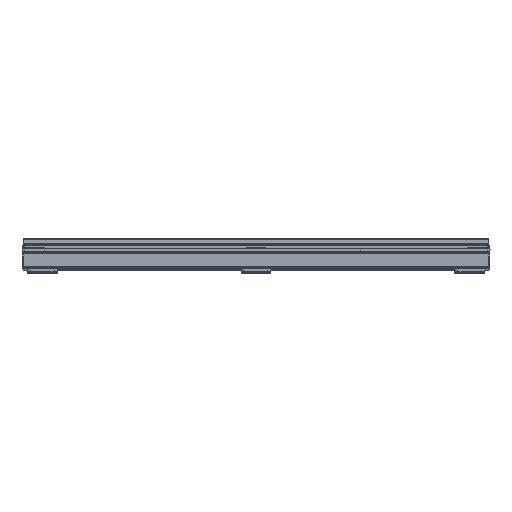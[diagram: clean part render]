
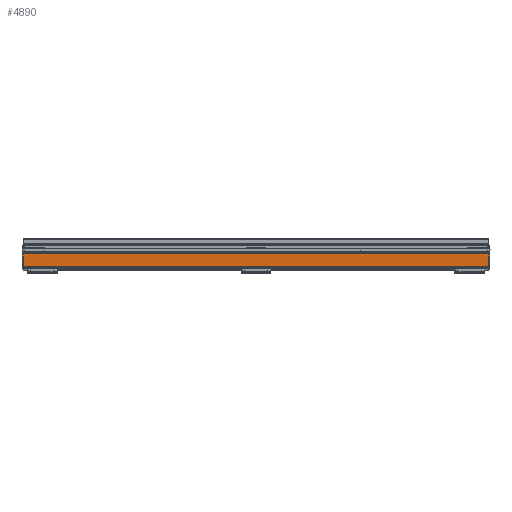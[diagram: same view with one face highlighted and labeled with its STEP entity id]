
A CAD part, top view. The second image highlights one B-rep face of the part: STEP entity #4890.
In plain terms, the highlighted planar face has unit normal (0, 0, 1) as drawn and (-1, 0, 0) by its records, which use the part's own axes.
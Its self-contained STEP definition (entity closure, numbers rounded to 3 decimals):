
#4890=ADVANCED_FACE('',(#10394),#10396,.T.);
#10394=FACE_BOUND('',#10395,.T.);
#10395=EDGE_LOOP('',(#20789,#20790,#20791,#20792));
#10396=PLANE('',#10397);
#10397=AXIS2_PLACEMENT_3D('',#10398,#10399,#10400);
#10398=CARTESIAN_POINT('',(-50.,40.,0.));
#10399=DIRECTION('',(-1.,0.,0.));
#10400=DIRECTION('',(0.,-1.,0.));
#20789=ORIENTED_EDGE('',*,*,#26805,.T.);
#20790=ORIENTED_EDGE('',*,*,#26838,.F.);
#20791=ORIENTED_EDGE('',*,*,#26817,.T.);
#20792=ORIENTED_EDGE('',*,*,#26830,.T.);
#26805=EDGE_CURVE('',#30145,#30143,#30146,.F.);
#26817=EDGE_CURVE('',#30166,#30164,#30167,.F.);
#26830=EDGE_CURVE('',#30164,#30145,#30189,.T.);
#26838=EDGE_CURVE('',#30166,#30143,#30200,.T.);
#30143=VERTEX_POINT('',#36202);
#30145=VERTEX_POINT('',#36207);
#30146=LINE('',#36208,#36209);
#30164=VERTEX_POINT('',#36254);
#30166=VERTEX_POINT('',#36259);
#30167=LINE('',#36260,#36261);
#30189=LINE('',#36314,#36315);
#30200=LINE('',#36344,#36345);
#36202=CARTESIAN_POINT('',(-50.,40.,2190.));
#36207=CARTESIAN_POINT('',(-50.,-20.,2190.));
#36208=CARTESIAN_POINT('',(-50.,40.,2190.));
#36209=VECTOR('',#36210,1.);
#36210=DIRECTION('',(0.,-1.,0.));
#36254=CARTESIAN_POINT('',(-50.,-20.,0.));
#36259=CARTESIAN_POINT('',(-50.,40.,0.));
#36260=CARTESIAN_POINT('',(-50.,-20.,0.));
#36261=VECTOR('',#36262,1.);
#36262=DIRECTION('',(0.,1.,0.));
#36314=CARTESIAN_POINT('',(-50.,-20.,0.));
#36315=VECTOR('',#36316,1.);
#36316=DIRECTION('',(0.,0.,1.));
#36344=CARTESIAN_POINT('',(-50.,40.,0.));
#36345=VECTOR('',#36346,1.);
#36346=DIRECTION('',(0.,0.,1.));
